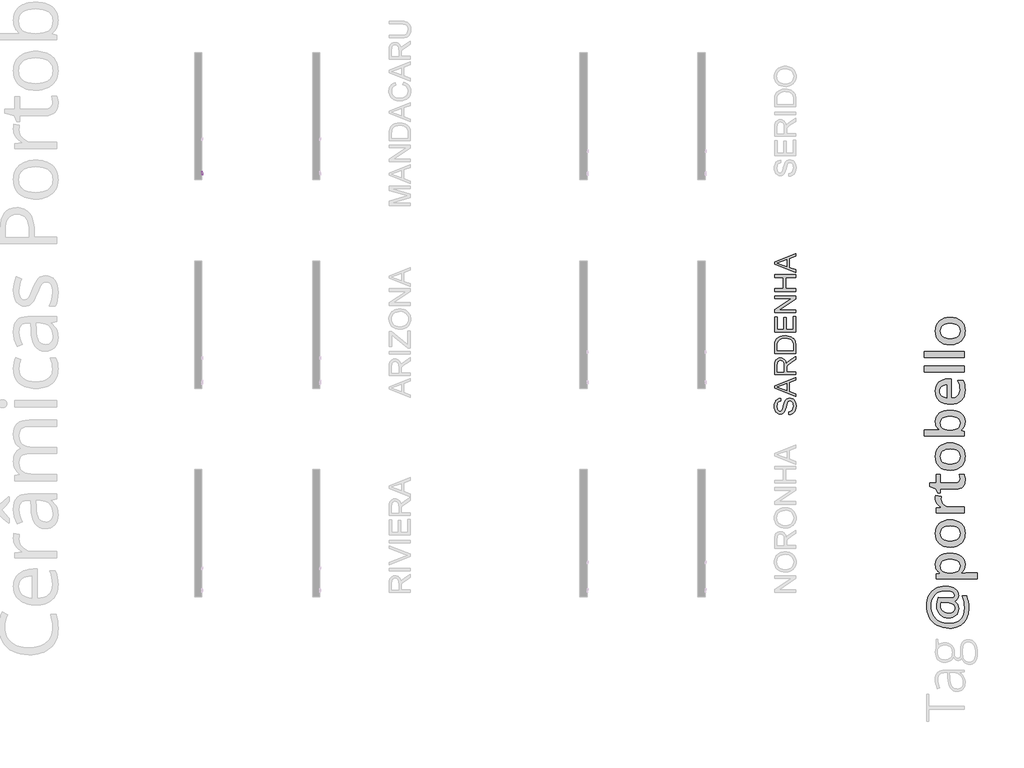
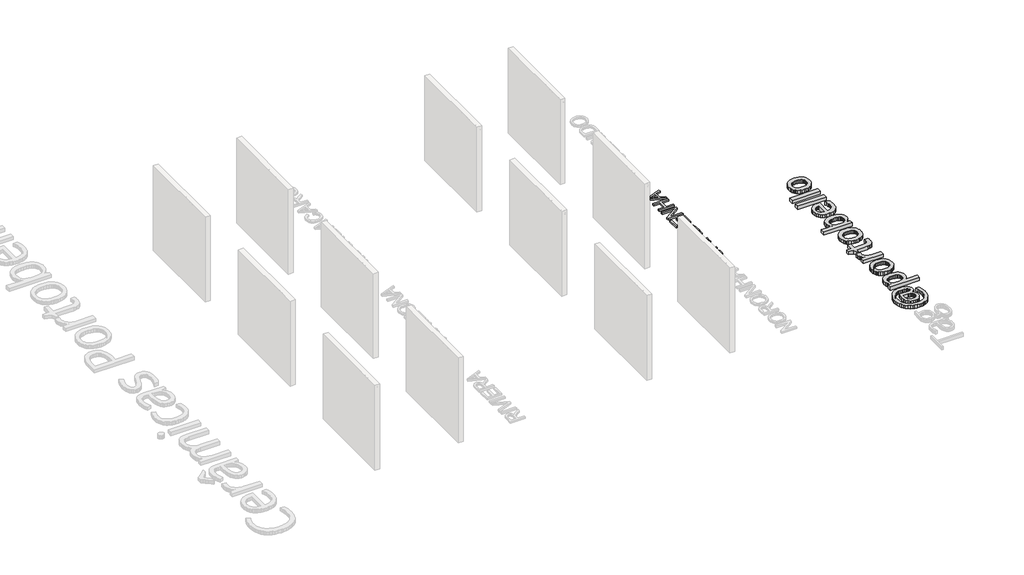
# One storey, part 6 of 11: 3 proxies.
"""IFC4 building model written with IfcOpenShell, lengths in millimetres."""

from ifc_helpers import new_model, si_unit, frame, origin, origin_with_axes, place, context, project, spatial, polyline, outline, extrude, element, save

model = new_model("IFC4")

# Units and contexts
model_context = context("Model", 3, world=origin())
ifc_project = project(units=[si_unit("LENGTHUNIT", "METRE", prefix="MILLI")], contexts=[model_context])

# Site, building, storey
site = spatial("IfcSite", under=ifc_project)
building = spatial("IfcBuilding", under=site)
storey = spatial("IfcBuildingStorey", under=building, Name="PORTOBELLO - SHOWROOM", Elevation=0.0)

# Proxies
placement = place(None, origin())
element("IfcBuildingElementProxy", 1, Name="10mm Arial", ObjectType="10mm Arial", at=placement, inside=storey, context=model_context, shape_type="SweptSolid", body=[
    extrude(outline(polyline([(1659.9490841, 2478.2261649), (1659.9490841, 2578.6824751), (1681.55602, 2578.6824751), (1702.1083608, 2507.8774537), (1706.2531646, 2493.0885975), (1710.7413249, 2509.1037271), (1730.9503092, 2578.6824751), (1752.557245, 2578.6824751), (1752.557245, 2478.2261649), (1740.0002063, 2478.2261649), (1740.0002063, 2566.1254363), (1714.7635014, 2478.2261649), (1697.7428278, 2478.2261649), (1672.5061229, 2566.1254363), (1672.5061229, 2478.2261649), (1659.9490841, 2478.2261649)])), frame((-27447.8341365, 0.0, 0.0), z_axis=(1.0, 0.0, 0.0), x_axis=(0.0, 1.0, 0.0)), (0.0, 0.0, 1.0), 20.0),
    extrude(outline(polyline([(1820.0513284, 2487.643944), (1807.8744344, 2479.1336072), (1794.4222161, 2476.6565351), (1783.9283822, 2478.1464572), (1776.1875319, 2482.6162234), (1771.414263, 2489.4036462), (1769.8231733, 2497.846538), (1772.226669, 2507.7793519), (1778.5419766, 2514.989839), (1787.3343563, 2519.1101173), (1798.1991379, 2520.9985782), (1819.977752, 2525.3150603), (1820.0513284, 2528.1109635), (1816.5932377, 2537.3815898), (1802.7118237, 2541.0113588), (1790.0076321, 2538.5956003), (1783.949842, 2530.0239499), (1771.3928032, 2531.5935797), (1776.825194, 2543.8563129), (1787.763552, 2551.0422745), (1804.3305045, 2553.5683975), (1819.5485564, 2551.3365801), (1828.1447323, 2545.732511), (1831.9952305, 2537.2099115), (1832.6083672, 2526.2225026), (1832.6083672, 2510.5997805), (1833.2460293, 2488.7843782), (1835.7476269, 2478.2261649), (1823.1905881, 2478.2261649), (1820.0513284, 2487.643944)]), holes=[polyline([(1820.0513284, 2512.7580215), (1799.7932932, 2508.9075233), (1788.9898253, 2506.8719096), (1784.0969948, 2503.5609717), (1782.3802121, 2498.7294548), (1786.1203457, 2491.9359006), (1797.0954919, 2489.2135739), (1809.7996835, 2492.2179435), (1817.9911892, 2499.4897443), (1819.977752, 2509.2018289), (1820.0513284, 2512.7580215)])]), frame((-27447.8341365, 0.0, 0.0), z_axis=(1.0, 0.0, 0.0), x_axis=(0.0, 1.0, 0.0)), (0.0, 0.0, 1.0), 20.0),
    extrude(outline(polyline([(1849.8742955, 2478.2261649), (1849.8742955, 2551.9987677), (1862.4313343, 2551.9987677), (1862.4313343, 2541.6980718), (1872.0330543, 2550.6008161), (1885.1419161, 2553.5683975), (1896.9999791, 2551.1771646), (1905.093383, 2544.8986452), (1908.8580421, 2535.6648071), (1909.5202296, 2523.5247013), (1909.5202296, 2478.2261649), (1896.9631909, 2478.2261649), (1896.9631909, 2521.8324441), (1895.5161884, 2532.9424804), (1890.4026286, 2538.8163295), (1881.7819272, 2541.0113588), (1868.1580307, 2536.08174), (1863.8630084, 2528.938698), (1862.4313343, 2517.3688092), (1862.4313343, 2478.2261649), (1849.8742955, 2478.2261649)])), frame((-27447.8341365, 0.0, 0.0), z_axis=(1.0, 0.0, 0.0), x_axis=(0.0, 1.0, 0.0)), (0.0, 0.0, 1.0), 20.0),
    extrude(outline(polyline([(1972.3054235, 2478.2261649), (1972.3054235, 2490.0719652), (1963.9974218, 2480.0103926), (1952.5133722, 2476.6565351), (1936.9642265, 2481.5125774), (1925.9768176, 2495.0628976), (1922.0772684, 2515.0388899), (1925.6702492, 2535.027145), (1936.436929, 2548.7859316), (1952.4643212, 2553.5683975), (1964.0403413, 2550.147095), (1972.3054235, 2541.2566134), (1972.3054235, 2578.6824751), (1984.8624623, 2578.6824751), (1984.8624623, 2478.2261649), (1972.3054235, 2478.2261649)]), holes=[polyline([(1934.6343072, 2515.0879409), (1936.0506529, 2503.7295842), (1940.2996899, 2495.6515088), (1946.4739761, 2490.8230576), (1953.6660691, 2489.2135739), (1960.8550964, 2490.7494812), (1966.8730327, 2495.3572032), (1970.9473258, 2503.122579), (1972.3054235, 2514.1314477), (1970.9228003, 2526.1673203), (1966.7749308, 2534.5121102), (1960.6037104, 2539.3865466), (1953.1510343, 2541.0113588), (1945.8853649, 2539.450926), (1939.9318079, 2534.7696276), (1935.9586824, 2526.7283403), (1934.6343072, 2515.0879409)])]), frame((-27447.8341365, 0.0, 0.0), z_axis=(1.0, 0.0, 0.0), x_axis=(0.0, 1.0, 0.0)), (0.0, 0.0, 1.0), 20.0),
    extrude(outline(polyline([(2050.7869158, 2487.643944), (2038.6100218, 2479.1336072), (2025.1578035, 2476.6565351), (2014.6639696, 2478.1464572), (2006.9231192, 2482.6162234), (2002.1498504, 2489.4036462), (2000.5587607, 2497.846538), (2002.9622564, 2507.7793519), (2009.277564, 2514.989839), (2018.0699437, 2519.1101173), (2028.9347253, 2520.9985782), (2050.7133394, 2525.3150603), (2050.7869158, 2528.1109635), (2047.328825, 2537.3815898), (2033.4474111, 2541.0113588), (2020.7432195, 2538.5956003), (2014.6854293, 2530.0239499), (2002.1283906, 2531.5935797), (2007.5607814, 2543.8563129), (2018.4991394, 2551.0422745), (2035.0660919, 2553.5683975), (2050.2841437, 2551.3365801), (2058.8803197, 2545.732511), (2062.7308179, 2537.2099115), (2063.3439546, 2526.2225026), (2063.3439546, 2510.5997805), (2063.9816167, 2488.7843782), (2066.4832143, 2478.2261649), (2053.9261755, 2478.2261649), (2050.7869158, 2487.643944)]), holes=[polyline([(2050.7869158, 2512.7580215), (2030.5288806, 2508.9075233), (2019.7254127, 2506.8719096), (2014.8325821, 2503.5609717), (2013.1157995, 2498.7294548), (2016.8559331, 2491.9359006), (2027.8310793, 2489.2135739), (2040.5352709, 2492.2179435), (2048.7267766, 2499.4897443), (2050.7133394, 2509.2018289), (2050.7869158, 2512.7580215)])]), frame((-27447.8341365, 0.0, 0.0), z_axis=(1.0, 0.0, 0.0), x_axis=(0.0, 1.0, 0.0)), (0.0, 0.0, 1.0), 20.0),
    extrude(outline(polyline([(2127.6987783, 2504.9098723), (2140.255817, 2503.3402425), (2136.7548067, 2492.1719582), (2130.1758504, 2483.7321321), (2121.138216, 2478.4254343), (2110.2611717, 2476.6565351), (2096.9039896, 2479.1244101), (2086.4592066, 2486.5280353), (2079.717769, 2498.5424481), (2077.4706232, 2514.8426862), (2081.3088587, 2535.7015953), (2093.0075061, 2549.1047627), (2110.0894934, 2553.5683975), (2120.6998233, 2552.0355559), (2129.182569, 2547.437031), (2135.2679503, 2540.0180774), (2138.6861872, 2530.0239499), (2126.1291484, 2528.45432), (2120.3043502, 2537.8598364), (2110.1875953, 2541.0113588), (2102.0727316, 2539.460123), (2095.631731, 2534.8064158), (2091.4286792, 2526.798851), (2090.0276619, 2515.1860427), (2091.3980224, 2503.4168846), (2095.5091037, 2495.3817286), (2101.8336083, 2490.7556126), (2109.8442388, 2489.2135739), (2121.6777763, 2493.0640721), (2127.6987783, 2504.9098723)])), frame((-27447.8341365, 0.0, 0.0), z_axis=(1.0, 0.0, 0.0), x_axis=(0.0, 1.0, 0.0)), (0.0, 0.0, 1.0), 20.0),
    extrude(outline(polyline([(2198.3321213, 2487.643944), (2186.1552273, 2479.1336072), (2172.703009, 2476.6565351), (2162.2091751, 2478.1464572), (2154.4683248, 2482.6162234), (2149.6950559, 2489.4036462), (2148.1039663, 2497.846538), (2150.507462, 2507.7793519), (2156.8227695, 2514.989839), (2165.6151492, 2519.1101173), (2176.4799308, 2520.9985782), (2198.2585449, 2525.3150603), (2198.3321213, 2528.1109635), (2194.8740306, 2537.3815898), (2180.9926166, 2541.0113588), (2168.2884251, 2538.5956003), (2162.2306349, 2530.0239499), (2149.6735961, 2531.5935797), (2155.1059869, 2543.8563129), (2166.0443449, 2551.0422745), (2182.6112974, 2553.5683975), (2197.8293493, 2551.3365801), (2206.4255252, 2545.732511), (2210.2760234, 2537.2099115), (2210.8891601, 2526.2225026), (2210.8891601, 2510.5997805), (2211.5268222, 2488.7843782), (2214.0284198, 2478.2261649), (2201.471381, 2478.2261649), (2198.3321213, 2487.643944)]), holes=[polyline([(2198.3321213, 2512.7580215), (2178.0740861, 2508.9075233), (2167.2706182, 2506.8719096), (2162.3777877, 2503.5609717), (2160.661005, 2498.7294548), (2164.4011386, 2491.9359006), (2175.3762848, 2489.2135739), (2188.0804764, 2492.2179435), (2196.2719822, 2499.4897443), (2198.2585449, 2509.2018289), (2198.3321213, 2512.7580215)])]), frame((-27447.8341365, 0.0, 0.0), z_axis=(1.0, 0.0, 0.0), x_axis=(0.0, 1.0, 0.0)), (0.0, 0.0, 1.0), 20.0),
    extrude(outline(polyline([(2228.1550884, 2478.2261649), (2228.1550884, 2551.9987677), (2239.1424973, 2551.9987677), (2239.1424973, 2541.0849352), (2246.9415956, 2551.1403764), (2254.7897449, 2553.5683975), (2267.3958346, 2549.6933739), (2263.2019798, 2538.4361848), (2254.3728119, 2541.0113588), (2247.2726894, 2538.5342867), (2242.7477409, 2531.6671561), (2240.7121272, 2517.0009272), (2240.7121272, 2478.2261649), (2228.1550884, 2478.2261649)])), frame((-27447.8341365, 0.0, 0.0), z_axis=(1.0, 0.0, 0.0), x_axis=(0.0, 1.0, 0.0)), (0.0, 0.0, 1.0), 20.0),
    extrude(outline(polyline([(2322.3328792, 2478.2261649), (2322.3328792, 2490.905831), (2312.4981672, 2480.2188591), (2299.6713483, 2476.6565351), (2287.8623362, 2479.1581327), (2279.7198814, 2485.436652), (2275.9797478, 2494.6827529), (2275.2439838, 2506.3568748), (2275.2439838, 2551.9987677), (2287.8010226, 2551.9987677), (2287.8010226, 2512.2675122), (2288.561312, 2499.4652188), (2293.5277189, 2491.9481634), (2302.8841844, 2489.2135739), (2313.3688212, 2492.009477), (2320.2972655, 2499.6246343), (2322.3328792, 2513.6164129), (2322.3328792, 2551.9987677), (2334.8899179, 2551.9987677), (2334.8899179, 2478.2261649), (2322.3328792, 2478.2261649)])), frame((-27447.8341365, 0.0, 0.0), z_axis=(1.0, 0.0, 0.0), x_axis=(0.0, 1.0, 0.0)), (0.0, 0.0, 1.0), 20.0),
])
element("IfcBuildingElementProxy", 2, Name="450mm Arial", ObjectType="450mm Arial", at=placement, inside=storey, context=model_context, shape_type="SweptSolid", body=[
    extrude(outline(polyline([(-15014.752231, -3414.1628114), (-15014.752231, -3357.9557936), (-14983.5611784, -3351.5062578), (-14958.4903235, -3339.8422038), (-14938.5928196, -3321.6462796), (-14922.92182, -3295.6011331), (-14912.7535094, -3263.7651269), (-14909.3640725, -3228.1966234), (-14911.9301644, -3196.8820691), (-14919.6284401, -3169.464681), (-14931.8139459, -3147.2480887), (-14947.8417283, -3131.5359218), (-14966.2434888, -3122.1909562), (-14985.5509288, -3119.0759677), (-15004.3643617, -3121.4087785), (-15020.6254253, -3128.4072109), (-15034.4987883, -3142.6236343), (-15046.1491199, -3166.6104183), (-15067.6109792, -3248.4509101), (-15081.8136803, -3302.1741706), (-15095.3302605, -3336.5488239), (-15114.2397504, -3364.528831), (-15137.1561859, -3384.3577228), (-15163.58556, -3396.1727234), (-15193.0338658, -3400.1110569), (-15225.9539429, -3395.2395991), (-15256.6509885, -3380.6252256), (-15282.6686901, -3356.652164), (-15301.5507352, -3323.7046421), (-15313.0363978, -3284.1566378), (-15316.864952, -3240.3821293), (-15312.8580064, -3192.9574579), (-15300.8371695, -3151.4608705), (-15281.049445, -3117.374388), (-15253.7418362, -3092.1800314), (-15220.6159229, -3076.2345835), (-15183.3732846, -3069.8948271), (-15183.3732846, -3126.1018449), (-15201.3084829, -3129.861787), (-15216.9108704, -3136.4211021), (-15230.1804471, -3145.7797901), (-15241.1172131, -3157.9378511), (-15249.6662785, -3173.1217049), (-15255.7727538, -3191.5577715), (-15260.6579341, -3238.1865426), (-15255.8276435, -3285.9131071), (-15249.7897803, -3304.1570598), (-15241.3367717, -3318.6547928), (-15220.0121365, -3337.5917275), (-15207.8472143, -3342.3259612), (-15194.6805557, -3343.9040391), (-15173.0814722, -3339.4305313), (-15155.708893, -3326.010008), (-15140.1751175, -3294.2837811), (-15124.3120041, -3234.2344867), (-15109.2447908, -3172.2640539), (-15096.0987158, -3134.7744121), (-15075.707205, -3102.7325697), (-15050.5402932, -3080.3787532), (-15020.8724288, -3067.2464007), (-14986.9780601, -3062.8689498), (-14952.3289585, -3067.9050767), (-14919.7382194, -3083.0134572), (-14891.6896001, -3107.5765827), (-14870.6668581, -3140.9769444), (-14857.5345055, -3181.1424574), (-14853.1570547, -3226.0010368), (-14857.8775659, -3281.0690941), (-14872.0390997, -3326.3942357), (-14882.6739725, -3345.533576), (-14895.6965457, -3362.4979134), (-14911.1068194, -3377.2872478), (-14928.9047936, -3389.9015791), (-14969.3584773, -3407.493717), (-15014.752231, -3414.1628114)])), origin_with_axes(), (0.0, 0.0, 1.0), 50.0),
    extrude(outline(polyline([(-14860.1829319, -3030.9231643), (-15309.8390747, -2851.4339569), (-15309.8390747, -2803.5701683), (-14860.1829319, -2624.0809609), (-14860.1829319, -2683.4715793), (-15000.7004765, -2734.9580859), (-15000.7004765, -2920.1558186), (-14860.1829319, -2971.5325458), (-14860.1829319, -3030.9231643)]), holes=[polyline([(-15056.9074944, -2899.5173042), (-15056.9074944, -2755.486821), (-15167.4552815, -2795.9953944), (-15253.6320569, -2827.5020626), (-15177.1158627, -2855.4957922), (-15056.9074944, -2899.5173042)])]), origin_with_axes(), (0.0, 0.0, 1.0), 50.0),
    extrude(outline(polyline([(-14860.1829319, -2564.0316664), (-15309.8390747, -2564.0316664), (-15309.8390747, -2370.2711459), (-15306.8064207, -2318.1945754), (-15297.7084586, -2280.3069835), (-15280.9122208, -2252.6151471), (-15254.7847399, -2231.1258429), (-15222.3861146, -2217.3348143), (-15186.7764438, -2212.7378048), (-15163.6816169, -2214.6417901), (-15142.4804835, -2220.353746), (-15123.1730435, -2229.8736724), (-15105.759297, -2243.2015694), (-15090.7950019, -2260.5089671), (-15078.8359159, -2281.9673959), (-15069.8820392, -2307.5768556), (-15063.9333716, -2337.3373463), (-15039.891698, -2305.3915608), (-14982.0379901, -2259.8331381), (-14860.1829319, -2184.8538546), (-14860.1829319, -2250.1725569), (-14953.3855846, -2308.6849408), (-15015.081569, -2350.9499835), (-15033.071657, -2366.6621503), (-15044.2279816, -2380.6452927), (-15054.9314664, -2407.37656), (-15056.9074944, -2439.9810215), (-15056.9074944, -2507.8246485), (-14860.1829319, -2507.8246485), (-14860.1829319, -2564.0316664)]), holes=[polyline([(-15113.1145122, -2507.8246485), (-15113.1145122, -2382.0175344), (-15115.1042626, -2345.8864118), (-15121.0735138, -2317.851515), (-15131.4202158, -2296.7464384), (-15146.5423188, -2281.4047768), (-15164.8342999, -2272.0598112), (-15184.6906365, -2268.9448227), (-15199.0648678, -2270.4302743), (-15212.1080246, -2274.886629), (-15234.2011152, -2292.712048), (-15242.7021522, -2306.3212545), (-15248.7743214, -2323.3816488), (-15253.6320569, -2367.8560006), (-15253.6320569, -2507.8246485), (-15113.1145122, -2507.8246485)])]), origin_with_axes(), (0.0, 0.0, 1.0), 50.0),
    extrude(outline(polyline([(-14860.1829319, -2114.3755236), (-15309.8390747, -2114.3755236), (-15309.8390747, -1959.2573278), (-15308.2198296, -1912.903005), (-15303.3620942, -1879.0086363), (-15290.8746952, -1843.1656845), (-15271.19675, -1812.9214786), (-15236.9455985, -1781.8264829), (-15194.3512177, -1759.6785027), (-15144.2369528, -1746.4226484), (-15087.4261486, -1742.0040303), (-15039.1644099, -1744.9955171), (-14996.6935309, -1753.9699775), (-14960.5349635, -1767.6375043), (-14931.2101595, -1784.7081904), (-14908.060443, -1804.3586907), (-14890.4271378, -1825.7656604), (-14877.3496749, -1850.3425083), (-14867.8674851, -1879.5026433), (-14862.1040702, -1913.3009551), (-14860.1829319, -1951.7923333), (-14860.1829319, -2114.3755236)]), holes=[polyline([(-14916.3899498, -2058.1685057), (-14916.3899498, -1958.7084312), (-14918.4208674, -1917.5686266), (-14924.5136203, -1886.3638515), (-14934.3114257, -1862.8161849), (-14947.4575006, -1844.6477055), (-14971.787345, -1825.1207069), (-15003.2802908, -1810.4514436), (-15042.0735622, -1801.271147), (-15088.3043833, -1798.2110482), (-15120.9362896, -1799.7102222), (-15149.5612504, -1804.2077442), (-15174.1792655, -1811.7036142), (-15194.7903351, -1822.1978321), (-15225.8578859, -1848.7781528), (-15236.7809295, -1864.0134657), (-15244.6301517, -1880.545547), (-15251.3815806, -1912.8755602), (-15253.6320569, -1960.2453418), (-15253.6320569, -2058.1685057), (-14916.3899498, -2058.1685057)])]), origin_with_axes(), (0.0, 0.0, 1.0), 50.0),
    extrude(outline(polyline([(-14860.1829319, -1664.7193808), (-15309.8390747, -1664.7193808), (-15309.8390747, -1341.5290281), (-15253.6320569, -1341.5290281), (-15253.6320569, -1608.5123629), (-15120.1403895, -1608.5123629), (-15120.1403895, -1355.5807826), (-15063.9333716, -1355.5807826), (-15063.9333716, -1608.5123629), (-14916.3899498, -1608.5123629), (-14916.3899498, -1334.5031509), (-14860.1829319, -1334.5031509), (-14860.1829319, -1664.7193808)])), origin_with_axes(), (0.0, 0.0, 1.0), 50.0),
    extrude(outline(polyline([(-14860.1829319, -1250.1926241), (-15309.8390747, -1250.1926241), (-15309.8390747, -1190.0335503), (-14953.6051432, -955.1057804), (-15309.8390747, -955.1057804), (-15309.8390747, -898.8987625), (-14860.1829319, -898.8987625), (-14860.1829319, -959.0578363), (-15216.5266427, -1193.9856062), (-14860.1829319, -1193.9856062), (-14860.1829319, -1250.1926241)])), origin_with_axes(), (0.0, 0.0, 1.0), 50.0),
    extrude(outline(polyline([(-14860.1829319, -800.5364813), (-15309.8390747, -800.5364813), (-15309.8390747, -744.3294634), (-15127.1662667, -744.3294634), (-15127.1662667, -505.4496376), (-15309.8390747, -505.4496376), (-15309.8390747, -449.2426197), (-14860.1829319, -449.2426197), (-14860.1829319, -505.4496376), (-15070.9592489, -505.4496376), (-15070.9592489, -744.3294634), (-14860.1829319, -744.3294634), (-14860.1829319, -800.5364813)])), origin_with_axes(), (0.0, 0.0, 1.0), 50.0),
    extrude(outline(polyline([(-14860.1829319, -403.2450797), (-15309.8390747, -223.7558723), (-15309.8390747, -175.8920837), (-14860.1829319, 3.5971237), (-14860.1829319, -55.7934947), (-15000.7004765, -107.2800013), (-15000.7004765, -292.477734), (-14860.1829319, -343.8544612), (-14860.1829319, -403.2450797)]), holes=[polyline([(-15056.9074944, -271.8392196), (-15056.9074944, -127.8087364), (-15167.4552815, -168.3173098), (-15253.6320569, -199.823978), (-15177.1158627, -227.8177076), (-15056.9074944, -271.8392196)])]), origin_with_axes(), (0.0, 0.0, 1.0), 50.0),
])
element("IfcBuildingElementProxy", 3, Name="80mm OpenSans Bold", ObjectType="80mm OpenSans Bold", at=placement, inside=storey, context=model_context, shape_type="SweptSolid", body=[
    extrude(outline(polyline([(-11691.3560761, -7049.9050274), (-11653.2504614, -7051.4523873), (-11616.8123899, -7056.0944669), (-11582.0418615, -7063.8312662), (-11548.9388763, -7074.6627853), (-11518.4573892, -7088.3035888), (-11491.5513549, -7104.4682415), (-11468.2207736, -7123.1567432), (-11448.4656451, -7144.369094), (-11432.7441684, -7167.7146983), (-11421.5145421, -7192.8029603), (-11414.7767664, -7219.63388), (-11412.5308411, -7248.2074574), (-11418.2395475, -7288.8294097), (-11425.3754304, -7306.9770867), (-11435.3656664, -7323.6825641), (-11447.7896141, -7338.3599485), (-11462.2266319, -7350.4233463), (-11478.6767199, -7359.8727576), (-11497.139878, -7366.7081822), (-11497.139878, -7373.4384465), (-11460.1234243, -7403.6044526), (-11433.6831003, -7440.2603563), (-11417.8189059, -7482.6249663), (-11412.5308411, -7529.9170913), (-11416.0837597, -7572.5821596), (-11426.7425153, -7610.4398962), (-11444.507108, -7643.4903012), (-11469.3775377, -7671.7333746), (-11500.3172237, -7694.3428562), (-11536.289585, -7710.4924859), (-11577.2946215, -7720.1822637), (-11623.3323334, -7723.4121897), (-11676.4758824, -7719.1306599), (-11724.3764352, -7706.2860707), (-11767.0339921, -7684.878422), (-11804.4485528, -7654.9077139), (-11834.8924827, -7617.7260082), (-11856.6381469, -7574.6853672), (-11869.6855454, -7525.7857907), (-11874.0346783, -7471.0272788), (-11872.2018831, -7426.7096902), (-11866.7034975, -7377.8852283), (-11857.9601631, -7329.6616828), (-11846.3925213, -7287.1468437), (-11595.2094433, -7299.4055393), (-11582.4700145, -7299.4055393), (-11544.6122779, -7295.8000406), (-11517.5710374, -7284.9835444), (-11508.1066032, -7276.8711723), (-11501.3462931, -7266.9560508), (-11495.938045, -7241.7175597), (-11499.4008261, -7220.9634076), (-11509.7891693, -7202.4476694), (-11527.1030747, -7186.1703449), (-11551.3425422, -7172.1314342), (-11580.945189, -7160.8266934), (-11614.3486324, -7152.7518786), (-11651.5528724, -7147.9069897), (-11692.557909, -7146.2920267), (-11737.6491774, -7148.7107154), (-11779.9011157, -7155.9667816), (-11819.3137236, -7168.0602253), (-11855.8870013, -7184.9910464), (-11889.0275438, -7206.3836722), (-11918.141946, -7231.8625298), (-11943.230208, -7261.4276194), (-11964.2923297, -7295.0789409), (-11980.9602499, -7332.0803715), (-11992.8659072, -7371.6957888), (-12000.0093015, -7413.9251927), (-12002.390433, -7458.7685831), (-11999.4008736, -7515.7429744), (-11990.4321955, -7568.8865234), (-11975.4843987, -7618.1992299), (-11954.5574832, -7663.6810941), (-11928.0796019, -7704.6711078), (-11896.4789078, -7740.5082628), (-11859.755401, -7771.1925593), (-11817.9090814, -7796.7239971), (-11771.7211404, -7816.8096296), (-11721.9727694, -7831.15651), (-11668.6639685, -7839.7646382), (-11611.7947375, -7842.6340143), (-11537.6191126, -7837.2783464), (-11472.5323491, -7821.2113427), (-11443.3972904, -7809.1610899), (-11416.534447, -7794.4330032), (-11391.943819, -7777.0270825), (-11369.6254063, -7756.9433278), (-11349.7669953, -7734.3582585), (-11332.5563725, -7709.4483936), (-11317.9935378, -7682.2137331), (-11306.0784912, -7652.6542772), (-11290.1917625, -7586.5609786), (-11284.8961862, -7511.1684979), (-11287.9909059, -7449.454378), (-11297.2750652, -7386.418242), (-11312.7486639, -7322.0600897), (-11334.4117021, -7256.3799212), (-11244.2742339, -7256.3799212), (-11223.6627995, -7315.6002378), (-11208.9403463, -7377.4044951), (-11200.1068745, -7441.7926932), (-11197.1623838, -7508.7648321), (-11198.8580949, -7558.3798747), (-11203.9452283, -7605.1893887), (-11212.4237839, -7649.1933739), (-11224.2937618, -7690.3918305), (-11239.5551618, -7728.7847584), (-11258.2079842, -7764.3721575), (-11280.2522287, -7797.154028), (-11305.6878955, -7827.1303697), (-11334.1581904, -7853.9180986), (-11365.3063193, -7877.1341302), (-11399.1322821, -7896.7784647), (-11435.6360788, -7912.851102), (-11474.8177095, -7925.3520421), (-11516.6771742, -7934.281285), (-11561.2144728, -7939.6388308), (-11608.4296053, -7941.4246794), (-11677.4974403, -7937.5637912), (-11742.6442955, -7925.9811265), (-11803.8701707, -7906.6766854), (-11861.1750661, -7879.6504679), (-11913.2745227, -7845.7738027), (-11958.8840816, -7805.9180189), (-11998.0037428, -7760.0831163), (-12030.6335063, -7708.269095), (-12056.3452191, -7651.6477421), (-12074.7107283, -7591.3908446), (-12085.7300338, -7527.4984026), (-12089.4031356, -7459.970416), (-12086.3384617, -7401.749123), (-12077.1444399, -7346.7878018), (-12061.8210703, -7295.0864523), (-12040.3683529, -7246.6450746), (-12013.2519979, -7202.4626923), (-11980.9377155, -7163.5383289), (-11943.4255059, -7129.8719846), (-11900.7153688, -7101.4636592), (-11853.6485875, -7078.9067578), (-11803.066445, -7062.7946853), (-11748.9689412, -7053.1274419), (-11691.3560761, -7049.9050274)]), holes=[polyline([(-11621.4094008, -7618.1316268), (-11592.0020518, -7616.542954), (-11566.5156826, -7611.7769353), (-11544.9502934, -7603.8335709), (-11527.305884, -7592.7128608), (-11513.5824544, -7578.4148049), (-11503.7800048, -7560.9394033), (-11497.898535, -7540.2866559), (-11495.938045, -7516.4565627), (-11498.4018025, -7491.1730029), (-11505.7930749, -7468.9240712), (-11518.1118622, -7449.7097675), (-11535.3581645, -7433.530092), (-11557.5319816, -7420.3850445), (-11584.6333137, -7410.2746252), (-11616.6621608, -7403.1988339), (-11653.6185227, -7399.1576708), (-11782.214644, -7392.4274065), (-11789.0650916, -7428.7227604), (-11791.3485741, -7467.42178), (-11788.4867095, -7501.0355442), (-11779.9011157, -7530.7283285), (-11765.5917926, -7556.500133), (-11745.5587403, -7578.3509575), (-11720.6282189, -7595.7550004), (-11691.6264885, -7608.1864595), (-11658.5535491, -7615.645335), (-11621.4094008, -7618.1316268)])]), origin_with_axes(), (0.0, 0.0, 1.0), 100.0),
    extrude(outline(polyline([(-11274.07969, -6591.2855893), (-11279.2776173, -6644.8422683), (-11294.8713993, -6692.0592787), (-11320.861036, -6732.9366205), (-11357.2465273, -6767.4742937), (-11357.2465273, -6775.1660244), (-11263.2631938, -6767.4742937), (-11012.560849, -6767.4742937), (-11012.560849, -6896.3107816), (-11889.4181395, -6896.3107816), (-11889.4181395, -6791.9916851), (-11812.2604667, -6773.9641914), (-11812.2604667, -6767.4742937), (-11833.949795, -6751.6439009), (-11852.7472129, -6733.9581785), (-11868.6527203, -6714.4171265), (-11881.6663172, -6693.020745), (-11891.7880038, -6669.769034), (-11899.0177799, -6644.6619933), (-11904.8016007, -6588.8819234), (-11899.6412307, -6536.07639), (-11884.1601205, -6489.4302502), (-11858.3582703, -6448.9435041), (-11822.2356799, -6414.6161516), (-11776.7988845, -6387.2744529), (-11723.054419, -6367.7446682), (-11661.0022837, -6356.0267973), (-11590.6424783, -6352.1208403), (-11520.1099094, -6356.0944004), (-11457.7798502, -6368.0150806), (-11403.6523005, -6387.8828808), (-11357.7272605, -6415.6978012), (-11321.1314484, -6450.5133983), (-11294.9915826, -6491.3832287), (-11279.3076632, -6538.3072923), (-11274.07969, -6591.2855893)]), holes=[polyline([(-11797.1173721, -6622.7736115), (-11794.3231106, -6657.859621), (-11785.940326, -6687.8829093), (-11771.9690185, -6712.8434766), (-11752.4091879, -6732.7413227), (-11726.7200094, -6747.9369975), (-11694.3606583, -6758.791051), (-11655.3311346, -6765.303483), (-11609.6314382, -6767.4742937), (-11590.6424783, -6767.4742937), (-11539.2941672, -6765.3260174), (-11495.5774952, -6758.8811884), (-11459.4924621, -6748.1398068), (-11431.0390679, -6733.1018725), (-11409.4811901, -6713.1814921), (-11394.082706, -6687.7927719), (-11384.8436155, -6656.9357119), (-11381.7639187, -6620.6103122), (-11385.1741196, -6589.6856492), (-11395.4047222, -6562.5317369), (-11412.4557266, -6539.1485754), (-11436.3271327, -6519.5361646), (-11466.4931388, -6504.0250086), (-11502.4279428, -6492.9456115), (-11544.1315447, -6486.2979732), (-11591.6039446, -6484.0820938), (-11639.2340851, -6486.2829503), (-11680.689809, -6492.8855198), (-11715.9711163, -6503.8898024), (-11745.0780071, -6519.295798), (-11767.8452293, -6538.9683004), (-11784.1075308, -6562.7721035), (-11793.8649118, -6590.7072072), (-11797.1173721, -6622.7736115)])]), origin_with_axes(), (0.0, 0.0, 1.0), 100.0),
    extrude(outline(polyline([(-11590.6424783, -5644.0008903), (-11520.1099094, -5648.8082219), (-11457.7798502, -5663.2302168), (-11403.6523005, -5687.266875), (-11357.7272605, -5720.9181964), (-11338.1223612, -5741.0902107), (-11321.1314484, -5763.1476003), (-11306.7545222, -5787.0903653), (-11294.9915826, -5812.9185056), (-11279.3076632, -5870.2309125), (-11274.07969, -5935.0848209), (-11276.4908673, -5976.7358426), (-11283.7243991, -6015.8780382), (-11295.7802855, -6052.5114075), (-11312.6585264, -6086.6359507), (-11334.0361293, -6117.6131939), (-11359.5901015, -6144.8046635), (-11389.3204431, -6168.2103594), (-11423.227154, -6187.8302817), (-11460.6867835, -6203.3414376), (-11501.0758807, -6214.4208348), (-11544.3944456, -6221.068473), (-11590.6424783, -6223.2843525), (-11660.611688, -6218.5145781), (-11722.4535026, -6204.205255), (-11776.1679222, -6180.3563833), (-11821.7549467, -6146.9679627), (-11841.2190062, -6126.9104982), (-11858.0878578, -6104.8962995), (-11872.3615015, -6080.9253665), (-11884.0399372, -6054.9976994), (-11899.6111849, -5997.2721625), (-11904.8016007, -5931.7196887), (-11899.4834901, -5868.8262703), (-11883.5291582, -5812.8283682), (-11856.9386051, -5763.7259824), (-11819.7118308, -5721.5191129), (-11773.4863325, -5687.6048905), (-11719.8996077, -5663.3804459), (-11658.9516563, -5648.8457792), (-11590.6424783, -5644.0008903)]), holes=[polyline([(-11590.6424783, -6090.6019993), (-11541.6865659, -6088.1382418), (-11499.2581085, -6080.7469694), (-11463.357106, -6068.4281821), (-11433.9835586, -6051.1818799), (-11411.1374661, -6029.0080627), (-11394.8188286, -6001.9067306), (-11385.0276462, -5969.8778836), (-11381.7639187, -5932.9215216), (-11385.0276462, -5896.3031752), (-11394.8188286, -5864.5672749), (-11411.1374661, -5837.7138209), (-11433.9835586, -5815.742813), (-11463.357106, -5798.6542513), (-11499.2581085, -5786.4481358), (-11541.6865659, -5779.1244665), (-11590.6424783, -5776.6832434), (-11639.0350315, -5779.1394894), (-11680.9752443, -5786.5082275), (-11716.4631167, -5798.7894575), (-11745.4986486, -5815.9831796), (-11768.0818401, -5838.0893936), (-11784.2126912, -5865.1080997), (-11793.8912019, -5897.0392978), (-11797.1173721, -5933.882988), (-11793.7822858, -5972.2740379), (-11783.7770268, -6005.0014503), (-11767.1015952, -6032.0652252), (-11743.7559909, -6053.4653624), (-11714.1758784, -6069.7126411), (-11678.7969222, -6081.3178401), (-11637.6191221, -6088.2809595), (-11590.6424783, -6090.6019993)])]), origin_with_axes(), (0.0, 0.0, 1.0), 100.0),
    extrude(outline(polyline([(-11904.8016007, -5193.3135493), (-11903.4194929, -5158.6406699), (-11899.2731694, -5130.5778715), (-11779.0898784, -5142.8365671), (-11784.1375767, -5170.2383575), (-11785.8201427, -5198.6016141), (-11782.6803543, -5234.6566014), (-11773.2609888, -5267.10609), (-11757.5620465, -5295.9500798), (-11735.5835271, -5321.1885709), (-11708.5873554, -5341.6948449), (-11677.8354558, -5356.3421835), (-11643.3278284, -5365.1305866), (-11605.0644732, -5368.0600543), (-11289.4631512, -5368.0600543), (-11289.4631512, -5496.8965422), (-11889.4181395, -5496.8965422), (-11889.4181395, -5395.9425778), (-11787.2623422, -5378.8765505), (-11787.2623422, -5372.3866528), (-11812.9064519, -5356.5900615), (-11835.7563001, -5338.5250106), (-11855.8118868, -5318.1915), (-11873.0732119, -5295.5895299), (-11886.954382, -5271.3951311), (-11896.8695035, -5246.2843348), (-11902.8185764, -5220.2571409), (-11904.8016007, -5193.3135493)])), origin_with_axes(), (0.0, 0.0, 1.0), 100.0),
    extrude(outline(polyline([(-11381.7639187, -4774.3545972), (-11385.429509, -4726.4615558), (-11396.4262802, -4678.4483311), (-11296.6741487, -4678.4483311), (-11287.8406768, -4703.206089), (-11280.5695877, -4734.213378), (-11275.7021644, -4768.9463491), (-11274.07969, -4804.8811531), (-11277.1143181, -4848.2598097), (-11286.2182024, -4885.8546453), (-11301.3913429, -4917.6656602), (-11322.6337395, -4943.6928541), (-11349.9453924, -4963.9362272), (-11383.3263015, -4978.3957794), (-11422.7764667, -4987.0715107), (-11468.2958881, -4989.9634211), (-11797.1173721, -4989.9634211), (-11797.1173721, -5073.6109916), (-11851.199853, -5073.6109916), (-11895.9080372, -4983.9542566), (-12027.8692906, -4939.9671721), (-12027.8692906, -4860.4058335), (-11889.4181395, -4860.4058335), (-11889.4181395, -4684.6978622), (-11797.1173721, -4684.6978622), (-11797.1173721, -4860.4058335), (-11472.6224866, -4860.4058335), (-11450.936914, -4858.9260767), (-11432.2709467, -4854.4868064), (-11416.6245845, -4847.0880226), (-11403.9978275, -4836.7297252), (-11394.2704924, -4823.9527391), (-11387.3223959, -4809.297889), (-11381.7639187, -4774.3545972)])), origin_with_axes(), (0.0, 0.0, 1.0), 100.0),
    extrude(outline(polyline([(-11590.6424783, -4013.3539991), (-11520.1099094, -4018.1613308), (-11457.7798502, -4032.5833257), (-11403.6523005, -4056.6199839), (-11357.7272605, -4090.2713053), (-11338.1223612, -4110.4433195), (-11321.1314484, -4132.5007092), (-11306.7545222, -4156.4434741), (-11294.9915826, -4182.2716145), (-11279.3076632, -4239.5840214), (-11274.07969, -4304.4379297), (-11276.4908673, -4346.0889515), (-11283.7243991, -4385.231147), (-11295.7802855, -4421.8645164), (-11312.6585264, -4455.9890596), (-11334.0361293, -4486.9663028), (-11359.5901015, -4514.1577724), (-11389.3204431, -4537.5634683), (-11423.227154, -4557.1833905), (-11460.6867835, -4572.6945465), (-11501.0758807, -4583.7739436), (-11544.3944456, -4590.4215819), (-11590.6424783, -4592.6374613), (-11660.611688, -4587.867687), (-11722.4535026, -4573.5583639), (-11776.1679222, -4549.7094921), (-11821.7549467, -4516.3210716), (-11841.2190062, -4496.2636071), (-11858.0878578, -4474.2494083), (-11872.3615015, -4450.2784754), (-11884.0399372, -4424.3508082), (-11899.6111849, -4366.6252713), (-11904.8016007, -4301.0727976), (-11899.4834901, -4238.1793792), (-11883.5291582, -4182.181477), (-11856.9386051, -4133.0790912), (-11819.7118308, -4090.8722218), (-11773.4863325, -4056.9579994), (-11719.8996077, -4032.7335548), (-11658.9516563, -4018.198888), (-11590.6424783, -4013.3539991)]), holes=[polyline([(-11590.6424783, -4459.9551082), (-11541.6865659, -4457.4913507), (-11499.2581085, -4450.1000783), (-11463.357106, -4437.781291), (-11433.9835586, -4420.5349887), (-11411.1374661, -4398.3611716), (-11394.8188286, -4371.2598395), (-11385.0276462, -4339.2309924), (-11381.7639187, -4302.2746305), (-11385.0276462, -4265.656284), (-11394.8188286, -4233.9203838), (-11411.1374661, -4207.0669297), (-11433.9835586, -4185.0959218), (-11463.357106, -4168.0073602), (-11499.2581085, -4155.8012447), (-11541.6865659, -4148.4775754), (-11590.6424783, -4146.0363523), (-11639.0350315, -4148.4925983), (-11680.9752443, -4155.8613363), (-11716.4631167, -4168.1425664), (-11745.4986486, -4185.3362884), (-11768.0818401, -4207.4425025), (-11784.2126912, -4234.4612086), (-11793.8912019, -4266.3924067), (-11797.1173721, -4303.2360968), (-11793.7822858, -4341.6271468), (-11783.7770268, -4374.3545592), (-11767.1015952, -4401.418334), (-11743.7559909, -4422.8184713), (-11714.1758784, -4439.0657499), (-11678.7969222, -4450.6709489), (-11637.6191221, -4457.6340684), (-11590.6424783, -4459.9551082)])]), origin_with_axes(), (0.0, 0.0, 1.0), 100.0),
    extrude(outline(polyline([(-11904.8016007, -3558.3400597), (-11899.6412307, -3505.5345263), (-11884.1601205, -3458.8883865), (-11858.3582703, -3418.4016404), (-11822.2356799, -3384.0742879), (-11776.7988845, -3356.7325892), (-11723.054419, -3337.2028044), (-11661.0022837, -3325.4849336), (-11590.6424783, -3321.5789766), (-11519.9146116, -3325.5300023), (-11457.4793919, -3337.3830794), (-11403.3368194, -3357.1382078), (-11357.4868939, -3384.7953876), (-11320.9962422, -3419.48329), (-11294.931491, -3460.330586), (-11279.2926403, -3507.3372756), (-11274.07969, -3560.503359), (-11279.2776173, -3614.1651984), (-11294.8713993, -3661.4573233), (-11320.861036, -3702.3797339), (-11357.2465273, -3736.93243), (-11357.2465273, -3745.585627), (-11289.4631512, -3769.141552), (-11289.4631512, -3865.7689179), (-12135.5535193, -3865.7689179), (-12135.5535193, -3736.93243), (-11935.5685232, -3736.93243), (-11869.5878965, -3739.0957293), (-11813.9430328, -3742.2204948), (-11813.9430328, -3736.93243), (-11835.2380097, -3720.8917164), (-11853.6936563, -3703.0557649), (-11869.3099726, -3683.4245755), (-11882.0869588, -3661.9981481), (-11892.0246146, -3638.7764829), (-11899.1229402, -3613.7595797), (-11904.8016007, -3558.3400597)]), holes=[polyline([(-11797.1173721, -3592.2317478), (-11794.2705304, -3627.775956), (-11785.7300053, -3657.9720079), (-11771.4957967, -3682.8199033), (-11751.5679048, -3702.3196422), (-11724.9698402, -3717.102187), (-11690.7251138, -3727.7984999), (-11648.8337255, -3734.4085809), (-11599.2956752, -3736.93243), (-11590.6424783, -3736.93243), (-11539.2941672, -3734.7841537), (-11495.5774952, -3728.3393247), (-11459.4924621, -3717.5979431), (-11431.0390679, -3702.5600088), (-11409.4811901, -3682.6396284), (-11394.082706, -3657.2509081), (-11384.8436155, -3626.3938482), (-11381.7639187, -3590.0684485), (-11385.1365623, -3558.5578919), (-11395.2544931, -3531.0884985), (-11412.1177111, -3507.6602682), (-11435.7262163, -3488.2732011), (-11465.7044359, -3473.0775263), (-11501.6767972, -3462.2234728), (-11543.6433001, -3455.7110407), (-11591.6039446, -3453.54023), (-11639.7711542, -3455.707285), (-11681.5160691, -3462.2084499), (-11716.8386895, -3473.0437247), (-11745.7390152, -3488.2131095), (-11768.2170463, -3507.7166042), (-11784.2727829, -3531.5542088), (-11793.9062248, -3559.7259233), (-11797.1173721, -3592.2317478)])]), origin_with_axes(), (0.0, 0.0, 1.0), 100.0),
    extrude(outline(polyline([(-11274.07969, -2892.7649946), (-11279.255083, -2959.5793929), (-11294.7812619, -3018.6870377), (-11306.425896, -3045.3508275), (-11320.6582267, -3070.0879289), (-11337.4782538, -3092.898342), (-11356.8859775, -3113.7820666), (-11402.2025896, -3148.6427324), (-11455.3461385, -3173.543208), (-11516.3166243, -3188.4834934), (-11585.1140469, -3193.4635885), (-11655.6466158, -3188.8440433), (-11718.2170416, -3174.9854075), (-11772.8253244, -3151.8876813), (-11819.4714642, -3119.5508646), (-11856.8033989, -3079.1317216), (-11883.4690666, -3031.7870164), (-11899.4684672, -2977.5167491), (-11904.8016007, -2916.3209197), (-11900.3097502, -2859.6019178), (-11886.8341987, -2809.14747), (-11864.3749463, -2764.9575762), (-11832.9319928, -2727.0322365), (-11793.6170337, -2696.5883066), (-11747.5417646, -2674.8426424), (-11694.7061853, -2661.7952439), (-11635.1102959, -2657.446111), (-11566.3654535, -2657.446111), (-11566.3654535, -3060.7812353), (-11524.4665537, -3056.8151867), (-11487.7054896, -3047.5610733), (-11456.0822612, -3033.0188951), (-11429.5968685, -3013.1886521), (-11408.6699529, -2988.4308942), (-11393.7221561, -2959.1061712), (-11384.753478, -2925.2144832), (-11381.7639187, -2886.7558301), (-11384.2877678, -2834.9868775), (-11391.8593151, -2786.8835153), (-11405.3198437, -2738.9003364), (-11425.5106366, -2687.4919338), (-11317.5860413, -2687.4919338), (-11297.2750652, -2734.8741962), (-11283.9347199, -2782.7972834), (-11276.5434475, -2834.3859611), (-11274.07969, -2892.7649946)]), holes=[polyline([(-11812.5008333, -2916.5612862), (-11810.0445873, -2945.5780395), (-11802.6758493, -2971.5751877), (-11790.3946192, -2994.5527306), (-11773.2008972, -3014.5106683), (-11751.3050039, -3031.1034739), (-11724.9172601, -3043.9856204), (-11694.0376657, -3053.1571078), (-11658.6662209, -3058.6179361), (-11658.6662209, -2784.1192996), (-11694.2329636, -2786.8309351), (-11725.2177183, -2793.7640087), (-11751.620485, -2804.9185204), (-11773.4412638, -2820.2944702), (-11790.5298254, -2839.4261478), (-11802.7359409, -2861.847843), (-11810.0596102, -2887.5595558), (-11812.5008333, -2916.5612862)])]), origin_with_axes(), (0.0, 0.0, 1.0), 100.0),
    extrude(outline(polyline([(-11289.4631512, -2383.6685743), (-11289.4631512, -2512.5050622), (-12135.5535193, -2512.5050622), (-12135.5535193, -2383.6685743), (-11289.4631512, -2383.6685743)])), origin_with_axes(), (0.0, 0.0, 1.0), 100.0),
    extrude(outline(polyline([(-11289.4631512, -2075.9993496), (-11289.4631512, -2204.8358374), (-12135.5535193, -2204.8358374), (-12135.5535193, -2075.9993496), (-11289.4631512, -2075.9993496)])), origin_with_axes(), (0.0, 0.0, 1.0), 100.0),
    extrude(outline(polyline([(-11590.6424783, -1352.0152051), (-11520.1099094, -1356.8225367), (-11457.7798502, -1371.2445316), (-11403.6523005, -1395.2811898), (-11357.7272605, -1428.9325113), (-11338.1223612, -1449.1045255), (-11321.1314484, -1471.1619151), (-11306.7545222, -1495.1046801), (-11294.9915826, -1520.9328205), (-11279.3076632, -1578.2452273), (-11274.07969, -1643.0991357), (-11276.4908673, -1684.7501575), (-11283.7243991, -1723.892353), (-11295.7802855, -1760.5257224), (-11312.6585264, -1794.6502655), (-11334.0361293, -1825.6275088), (-11359.5901015, -1852.8189783), (-11389.3204431, -1876.2246743), (-11423.227154, -1895.8445965), (-11460.6867835, -1911.3557525), (-11501.0758807, -1922.4351496), (-11544.3944456, -1929.0827879), (-11590.6424783, -1931.2986673), (-11660.611688, -1926.528893), (-11722.4535026, -1912.2195699), (-11776.1679222, -1888.3706981), (-11821.7549467, -1854.9822776), (-11841.2190062, -1834.924813), (-11858.0878578, -1812.9106143), (-11872.3615015, -1788.9396814), (-11884.0399372, -1763.0120142), (-11899.6111849, -1705.2864773), (-11904.8016007, -1639.7340036), (-11899.4834901, -1576.8405851), (-11883.5291582, -1520.842683), (-11856.9386051, -1471.7402972), (-11819.7118308, -1429.5334277), (-11773.4863325, -1395.6192053), (-11719.8996077, -1371.3947608), (-11658.9516563, -1356.860094), (-11590.6424783, -1352.0152051)]), holes=[polyline([(-11590.6424783, -1798.6163141), (-11541.6865659, -1796.1525567), (-11499.2581085, -1788.7612843), (-11463.357106, -1776.442497), (-11433.9835586, -1759.1961947), (-11411.1374661, -1737.0223775), (-11394.8188286, -1709.9210454), (-11385.0276462, -1677.8921984), (-11381.7639187, -1640.9358365), (-11385.0276462, -1604.31749), (-11394.8188286, -1572.5815898), (-11411.1374661, -1545.7281357), (-11433.9835586, -1523.7571278), (-11463.357106, -1506.6685661), (-11499.2581085, -1494.4624507), (-11541.6865659, -1487.1387814), (-11590.6424783, -1484.6975583), (-11639.0350315, -1487.1538043), (-11680.9752443, -1494.5225423), (-11716.4631167, -1506.8037723), (-11745.4986486, -1523.9974944), (-11768.0818401, -1546.1037085), (-11784.2126912, -1573.1224146), (-11793.8912019, -1605.0536127), (-11797.1173721, -1641.8973028), (-11793.7822858, -1680.2883528), (-11783.7770268, -1713.0157652), (-11767.1015952, -1740.07954), (-11743.7559909, -1761.4796772), (-11714.1758784, -1777.7269559), (-11678.7969222, -1789.3321549), (-11637.6191221, -1796.2952743), (-11590.6424783, -1798.6163141)])]), origin_with_axes(), (0.0, 0.0, 1.0), 100.0),
])

save(model, "model.ifc")
